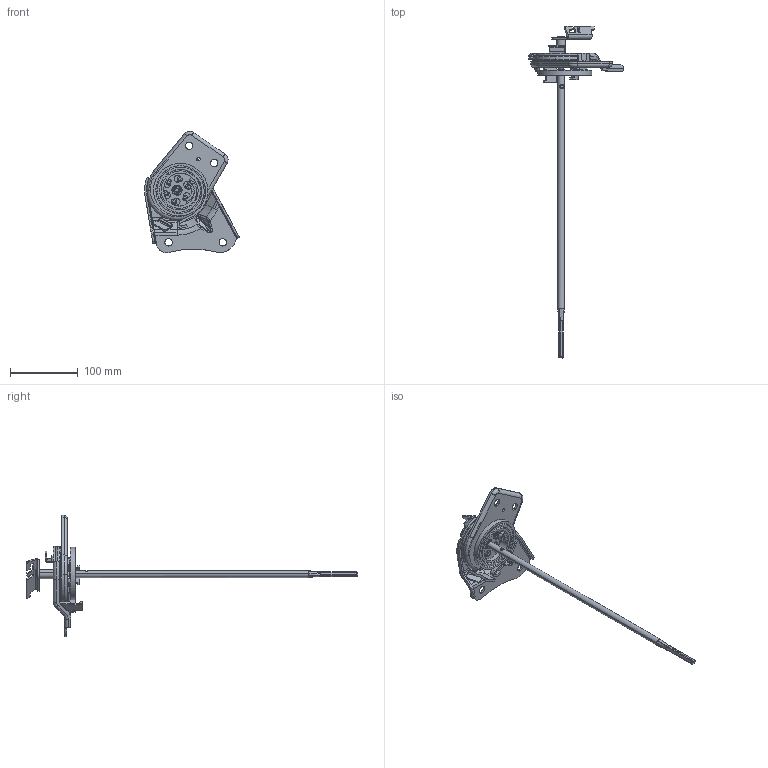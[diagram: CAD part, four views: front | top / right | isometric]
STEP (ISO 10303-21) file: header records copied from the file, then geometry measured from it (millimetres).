
FILE_DESCRIPTION(('CATIA V5 STEP Exchange'),'2;1');
FILE_NAME('C:\Users\Administrator\Desktop\调角器窝簧上固定板更改数据-SHT0016631-20250623.stp','2025-06-23T06:47:59+00:00',('none'),('none'),'CATIA Version 5 Release 20 GA (IN-10)','CATIA V5 STEP AP214','none');
FILE_SCHEMA(('AUTOMOTIVE_DESIGN { 1 0 10303 214 1 1 1 1 }'));
Length unit declared in the file: millimetre
Products named in the file (12): SHT0016631; SQX3000-6805105; H4B-6805105; SQX3000-6805101; H4B-6805115; H4B-6805110; SHT0010720; SHT0016632; SQX3000-6805102; SHT0010871; B406805215; H4B-6805108
Assembly tree (11 placements, depth 3):
  SHT0016631
    SQX3000-6805105
    H4B-6805105
    SQX3000-6805101
    H4B-6805115
    H4B-6805110
    SHT0010720
    SHT0016632
      SQX3000-6805102
      SHT0010871
      B406805215
      H4B-6805108
Bounding box: 140.2 x 489.95 x 179.32 mm (x, y, z)
Volume: 178461.3 mm3; surface area: 140099.3 mm2
Topology: 14 solids, 14 shells, 1150 faces, 3019 edges, 1894 vertices
Faces by surface type: cylinder 479, plane 357, torus 109, bspline 92, sphere 70, cone 41, extrusion 2
Entity records: 46668 total; most frequent: CARTESIAN_POINT 20063, ORIENTED_EDGE 5902, DIRECTION 4278, EDGE_CURVE 2951, AXIS2_PLACEMENT_3D 2043, VERTEX_POINT 1894, EDGE_LOOP 1285, VECTOR 1239
